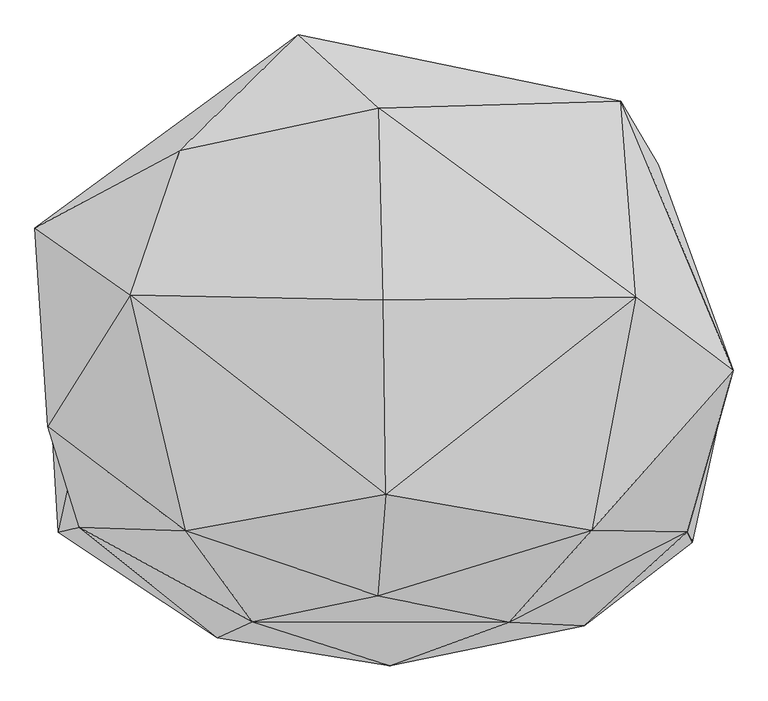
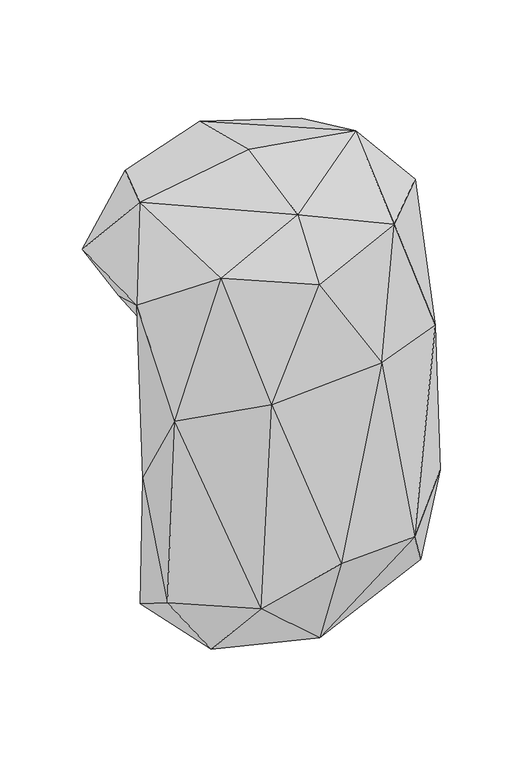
"""IFC4 building model written with IfcOpenShell, lengths in millimetres: geographic element geometry, Enscape AssetDefinition - Creeper Plant 001 Bower Vine : Enscape AssetDefinition - Creeper Plant 001 Bower Vine 2."""

from ifc_helpers import new_model, si_unit, origin, place, context, project, spatial, triangles, source, transform, mapped, element, save


def geographic_element_212cce61(model_context):
    return source(origin(), model_context, "Body", "Tessellation", [
        triangles([(-443.8294135, 0.0, 0.0), (443.8294135, 0.0, 0.0), (405.9910254, 0.0, -326.6627644), (473.7219203, -92.0961227, -120.7523314), (-501.465721, -90.0295156, 119.1131873), (-438.5749377, 125.755251, 0.0), (377.8247214, 209.7362168, 0.0), (-321.8949958, 280.0056014, 0.0), (-520.0223645, 199.1105754, 152.0078274), (-309.3671268, 312.1653571, 295.3135696), (-380.9994186, 101.395001, 332.9135456), (-136.4236496, 480.7766859, 159.9108788), (-307.2709248, 321.5579161, 18.6569564), (355.5606734, 98.3435975, 334.3389673), (-18.7999903, 373.8148281, 332.7787428), (-12.5212708, 94.5951072, 400.0000031), (-2.6535359, 398.7932453, 6.3132456), (-2.6847735, 390.3804957, 0.0), (333.761895, 384.4437942, 215.2553567), (387.9292282, 292.0056865, 56.112259), (22.675074, 377.0668462, 0.0), (-28.5477079, 377.7523785, 0.0), (291.4582272, -241.2087326, 226.4252054), (497.0776895, -8.4521861, 174.737154), (-8.777713, -189.4088784, 333.0418081), (-20.7811012, -336.6472203, 174.6105629), (170.8176803, -375.7170012, -150.940814), (430.1424582, -243.9855798, -186.5005167), (437.7693183, -258.9302163, -701.2372118), (280.5333489, -380.6771999, -814.6158291), (450.3843186, -97.2256334, -980.0886503), (371.9899395, -257.7168819, -1002.1685526), (291.8873252, 0.0, -1040.4689037), (449.7563046, -86.1922407, -570.5053296), (138.9752562, -91.8708821, -1208.8977219), (-3.4065218, -438.6686093, -778.1880381), (12.8270684, -281.0627498, -1146.0267048), (-495.0735603, -98.4241522, -955.7514004), (-345.5153927, 0.0, -1009.292391), (-292.4298793, -169.7753384, -1149.4299854), (-60.0350165, 0.0, -1159.7497044), (44.7763639, 0.0, -1177.4137424), (-435.081292, -10.5072802, -576.7298043), (353.5762742, 0.0, -588.2744848), (388.9814169, 0.0, -838.1195543), (-410.6338743, 0.0, -960.6228327), (-455.6831231, -236.9291791, -227.1387338), (-254.2248712, -397.7015968, -876.9985765), (-486.2613075, -244.6086704, -868.1765133), (-300.0188965, -242.4582202, 237.7528934), (-203.6169683, -374.4215135, -172.0819745), (386.8621785, 0.0, -969.7177717)], [[44, 3, 34], [45, 44, 34], [34, 52, 45], [38, 46, 39], [25, 14, 16], [27, 26, 51], [51, 48, 36], [27, 51, 36], [51, 26, 50], [26, 25, 50], [48, 51, 47], [50, 47, 51], [48, 47, 49], [43, 38, 49], [38, 43, 46], [43, 49, 47], [39, 46, 43], [43, 45, 52], [43, 44, 45], [43, 3, 44], [43, 52, 33], [43, 33, 42], [43, 41, 39], [43, 42, 41], [39, 41, 40], [48, 49, 40], [38, 39, 40], [40, 49, 38], [48, 40, 37], [36, 48, 37], [41, 35, 40], [41, 42, 35], [35, 37, 40], [35, 42, 33], [34, 31, 52], [31, 33, 52], [31, 35, 33], [37, 35, 32], [31, 32, 35], [37, 30, 36], [32, 30, 37], [30, 27, 36], [32, 29, 30], [31, 29, 32], [34, 29, 31], [34, 4, 29], [4, 34, 3], [28, 27, 30], [28, 30, 29], [4, 28, 29], [23, 14, 25], [28, 23, 27], [25, 26, 23], [23, 26, 27], [4, 24, 28], [14, 23, 24], [23, 28, 24], [7, 8, 22], [22, 21, 7], [22, 18, 21], [20, 7, 21], [19, 24, 20], [24, 19, 14], [20, 21, 17], [17, 22, 8], [20, 17, 19], [17, 18, 22], [17, 21, 18], [17, 8, 13], [17, 13, 12], [12, 19, 17], [14, 15, 16], [19, 12, 15], [14, 19, 15], [11, 50, 25], [15, 11, 16], [11, 25, 16], [15, 10, 11], [10, 15, 12], [8, 9, 13], [9, 12, 13], [10, 12, 9], [10, 9, 11], [50, 5, 47], [47, 5, 43], [9, 5, 11], [50, 11, 5], [8, 6, 9], [5, 9, 6], [7, 6, 8], [5, 6, 1], [5, 1, 43], [7, 1, 6], [24, 4, 2], [4, 3, 2], [20, 2, 7], [20, 24, 2], [43, 2, 3], [43, 1, 2], [7, 2, 1]]),
    ])


if __name__ == "__main__":
    model = new_model("IFC4")
    model_context = context("Model", 3, world=origin())
    ifc_project = project(units=[si_unit("LENGTHUNIT", "METRE", prefix="MILLI")], contexts=[model_context])
    site = spatial("IfcSite", under=ifc_project)
    building = spatial("IfcBuilding", under=site)
    placement = place(None, origin())
    geographic_element_shape = geographic_element_212cce61(model_context)
    element("IfcGeographicElement", 1, ObjectType="Enscape AssetDefinition - Creeper Plant 001 Bower Vine : Enscape AssetDefinition - Creeper Plant 001 Bower Vine 2", at=placement, inside=building, context=model_context, shape_type="MappedRepresentation", body=[
        mapped(geographic_element_shape, transform((0.0, 0.0, 0.0), x_axis=(1.0, 0.0, 0.0), y_axis=(0.0, 1.0, 0.0), z_axis=(0.0, 0.0, 1.0))),
    ])
    save(model, "model.ifc")
